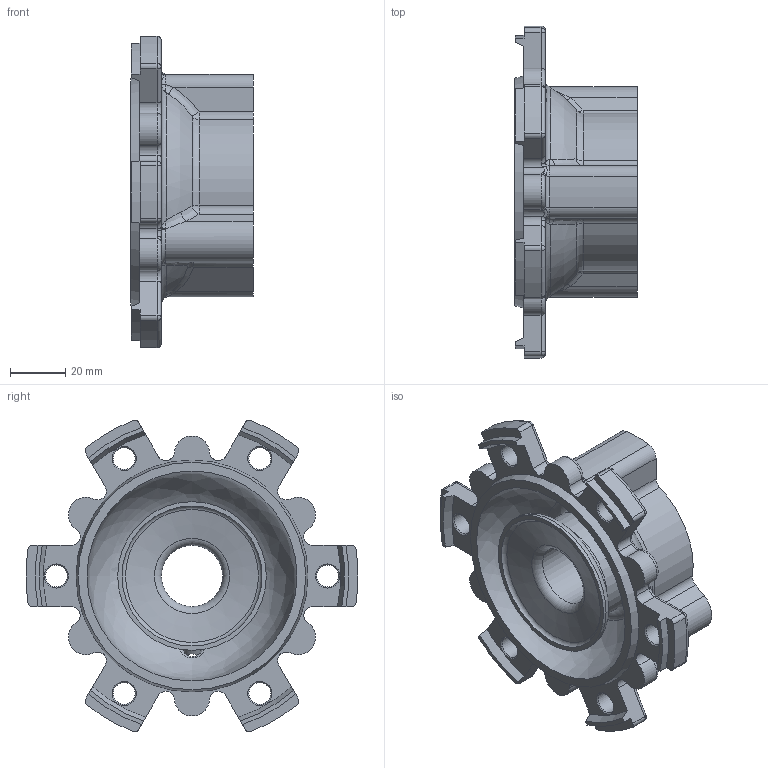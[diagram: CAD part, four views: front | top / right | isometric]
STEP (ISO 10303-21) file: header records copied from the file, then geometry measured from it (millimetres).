
FILE_DESCRIPTION(/* description */ (''),/* implementation_level */ '2;1');
FILE_NAME(/* name */ 'E:/hidden/Engineering Projects/Leslie Controls SuperTyfon/CAD/Components/25190 Diaphragm Housing.step',/* time_stamp */ '2022-08-18T19:35:41+10:00',/* author */ (''),/* organization */ (''),/* preprocessor_version */ 'ST-DEVELOPER v19',/* originating_system */ 'Autodesk Translation Framework v11.7.0.108',/* authorisation */ '');
FILE_SCHEMA (('AUTOMOTIVE_DESIGN { 1 0 10303 214 3 1 1 }'));
Length unit declared in the file: inch
Products named in the file (1): 25190 Diaphragm Housing
Bounding box: 44.45 x 120.47 x 113.09 mm (x, y, z)
Volume: 119777.1 mm3; surface area: 43143.3 mm2
Topology: 1 solids, 1 shells, 278 faces, 668 edges, 392 vertices
Faces by surface type: cylinder 96, torus 55, plane 48, bspline 48, sphere 16, cone 15
Full cylindrical faces by diameter (mm): 6.35 x1, 7.938 x6, 8.136 x1, 9.525 x3, 22.225 x1, 39.688 x1, 44.648 x1, 53.975 x1
Entity records: 9406 total; most frequent: CARTESIAN_POINT 2941, DIRECTION 1389, ORIENTED_EDGE 1324, EDGE_CURVE 662, AXIS2_PLACEMENT_3D 600, VERTEX_POINT 392, CIRCLE 368, EDGE_LOOP 300
